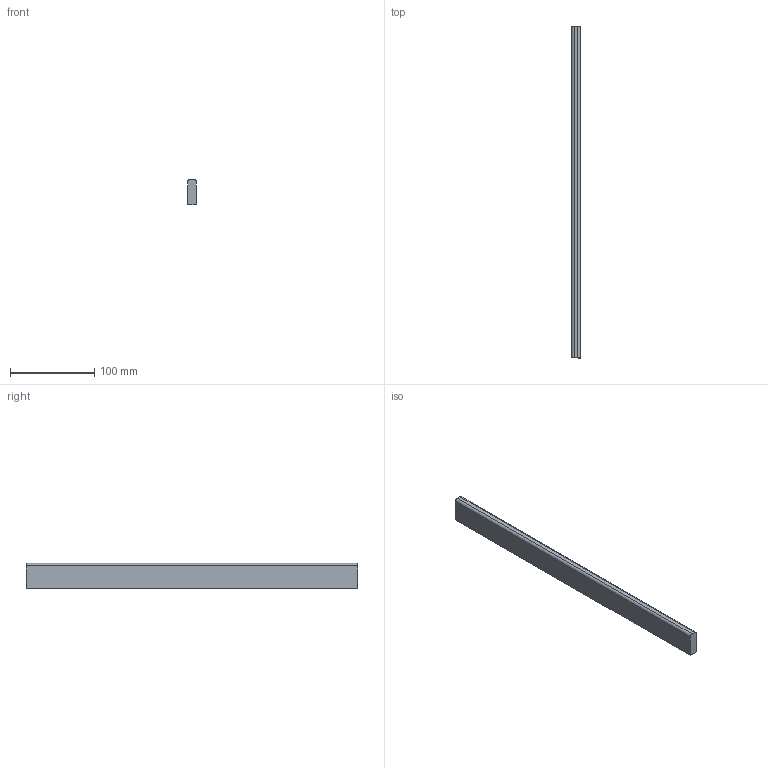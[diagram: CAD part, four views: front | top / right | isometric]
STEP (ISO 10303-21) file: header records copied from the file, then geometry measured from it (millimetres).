
FILE_DESCRIPTION (( 'STEP AP214' ), '1' );
FILE_NAME ('_Seitenreling_SP60700300_RL395.step', '2010-09-06T14:52:15', ( 'grass' ), ( '' ), 'SwSTEP 2.0', 'SolidWorks 2010', '' );
FILE_SCHEMA (( 'AUTOMOTIVE_DESIGN' ));
Length unit declared in the file: millimetre
Products named in the file (1): _Seitenreling_SP60700300_RL395
Bounding box: 10.5 x 395 x 30 mm (x, y, z)
Volume: 122899.2 mm3; surface area: 31600.1 mm2
Topology: 1 solids, 1 shells, 8 faces, 18 edges, 12 vertices
Faces by surface type: plane 6, cylinder 2
Entity records: 260 total; most frequent: DIRECTION 40, CARTESIAN_POINT 39, ORIENTED_EDGE 36, EDGE_CURVE 18, VECTOR 14, LINE 14, AXIS2_PLACEMENT_3D 13, VERTEX_POINT 12
